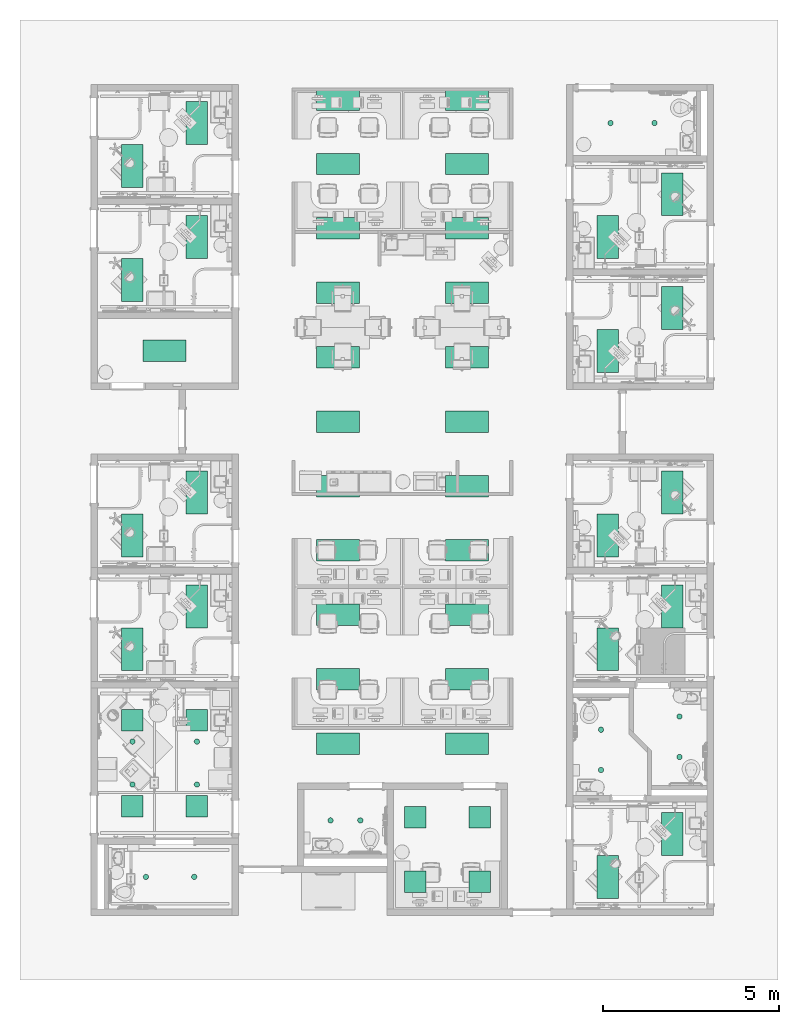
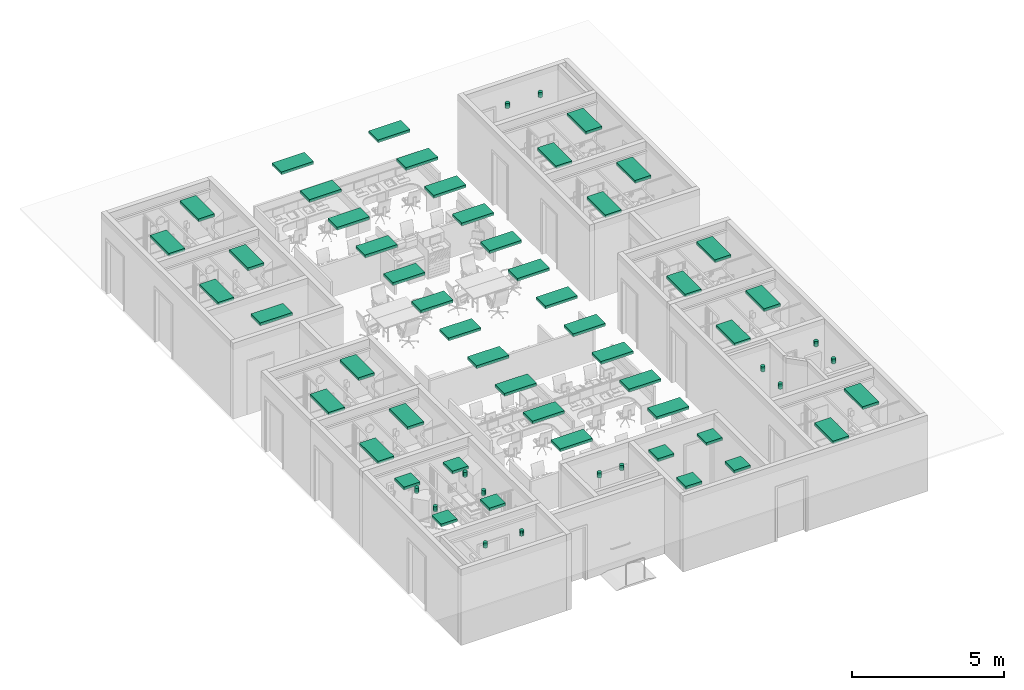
# One storey, part 6 of 142: 63 flow terminals.
"""IFC2X3 building model written with IfcOpenShell, lengths in feet."""

from ifc_helpers import new_model, entity, si_unit, converted_unit, derived_unit, direction, frame, frame_2d, origin, origin_2d_with_axis, place, context, subcontext, project, spatial, rectangle, circle, extrude, source, transform, mapped, type_object, type_shapes, element, save


model = new_model("IFC2X3")

# Units and contexts
model_context = context("Model", 3, precision=0.0001, world=origin(), true_north=direction((6.12303176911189e-17, 1.0)))
body_context = subcontext(model_context, "Body", "Model", "MODEL_VIEW")
ifc_project = project(units=[converted_unit("LENGTHUNIT", "FOOT", entity("IfcRatioMeasure", 0.3048), si_unit("LENGTHUNIT", "METRE"), dimensions=[1, 0, 0, 0, 0, 0, 0]), converted_unit("AREAUNIT", "SQUARE FOOT", entity("IfcRatioMeasure", 0.09290304), si_unit("AREAUNIT", "SQUARE_METRE"), dimensions=[2, 0, 0, 0, 0, 0, 0]), converted_unit("VOLUMEUNIT", "CUBIC FOOT", entity("IfcRatioMeasure", 0.028316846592), si_unit("VOLUMEUNIT", "CUBIC_METRE"), dimensions=[3, 0, 0, 0, 0, 0, 0]), converted_unit("PLANEANGLEUNIT", "DEGREE", entity("IfcRatioMeasure", 0.0174532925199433), si_unit("PLANEANGLEUNIT", "RADIAN"), dimensions=[0, 0, 0, 0, 0, 0, 0]), si_unit("MASSUNIT", "GRAM", prefix="KILO"), derived_unit("MASSDENSITYUNIT", [(si_unit("MASSUNIT", "GRAM", prefix="KILO"), 1), (si_unit("LENGTHUNIT", "METRE"), -3)]), si_unit("TIMEUNIT", "SECOND"), si_unit("FREQUENCYUNIT", "HERTZ"), si_unit("THERMODYNAMICTEMPERATUREUNIT", "DEGREE_CELSIUS"), derived_unit("THERMALTRANSMITTANCEUNIT", [(si_unit("MASSUNIT", "GRAM", prefix="KILO"), 1), (si_unit("THERMODYNAMICTEMPERATUREUNIT", "KELVIN"), -1), (si_unit("TIMEUNIT", "SECOND"), -3)]), derived_unit("VOLUMETRICFLOWRATEUNIT", [(si_unit("LENGTHUNIT", "METRE"), 3), (si_unit("TIMEUNIT", "SECOND"), -1)]), si_unit("ELECTRICCURRENTUNIT", "AMPERE"), si_unit("ELECTRICVOLTAGEUNIT", "VOLT"), si_unit("POWERUNIT", "WATT"), si_unit("FORCEUNIT", "NEWTON"), si_unit("ILLUMINANCEUNIT", "LUX"), si_unit("LUMINOUSFLUXUNIT", "LUMEN"), si_unit("LUMINOUSINTENSITYUNIT", "CANDELA"), derived_unit("USERDEFINED", [(si_unit("MASSUNIT", "GRAM", prefix="KILO"), -1), (si_unit("LENGTHUNIT", "METRE"), -2), (si_unit("TIMEUNIT", "SECOND"), 3), (si_unit("LUMINOUSFLUXUNIT", "LUMEN"), 1)]), derived_unit("LINEARVELOCITYUNIT", [(si_unit("LENGTHUNIT", "METRE"), 1), (si_unit("TIMEUNIT", "SECOND"), -1)]), si_unit("PRESSUREUNIT", "PASCAL"), derived_unit("USERDEFINED", [(si_unit("LENGTHUNIT", "METRE"), -2), (si_unit("MASSUNIT", "GRAM", prefix="KILO"), 1), (si_unit("TIMEUNIT", "SECOND"), -2)])], contexts=[model_context])

# Site, building, storey, space
site_placement = place(None, origin())
site = spatial("IfcSite", under=ifc_project, at=site_placement, Name="Default", CompositionType="ELEMENT")
building_placement = place(site_placement, origin())
building = spatial("IfcBuilding", under=site, at=building_placement, Name="OUTPATIENT / PACT CLINIC (Ch. 265)", CompositionType="ELEMENT")
storey_placement = place(building_placement, origin())
storey = spatial("IfcBuildingStorey", under=building, at=storey_placement, Name="LEVEL 1", CompositionType="ELEMENT", Elevation=0.0)
space_1_placement = place(storey_placement, origin())
space_1 = spatial("IfcSpace", under=storey, at=space_1_placement, Name="FA01", CompositionType="ELEMENT", InteriorOrExteriorSpace="INTERNAL")

# Flow terminals
light_fixture_type_1 = type_object("IfcLightFixtureType", Name="2'x2'", PredefinedType="NOTDEFINED")
shared_shape_1 = source(origin(), body_context, "Body", "SweptSolid", [
    extrude(rectangle(XDim=2.00000000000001, YDim=2.0, at=origin_2d_with_axis()), frame((-0.0613631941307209, -0.195098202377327, 8.0), z_axis=(0.0, 0.0, 1.0), x_axis=(-1.0, 0.0, 0.0)), (0.0, 0.0, 1.0), 0.375),
])
type_shapes(light_fixture_type_1, [shared_shape_1])
for number, where, z_axis, x_axis in (
    (1, (420.351685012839, -950.025807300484, 1.0), (0.0, 0.0, 1.0), (0.0, 1.0, 0.0)),
    (2, (426.351685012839, -950.025807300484, 1.0), (0.0, 0.0, 1.0), (0.0, 1.0, 0.0)),
    (3, (420.351685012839, -944.025807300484, 1.0), (0.0, 0.0, 1.0), (0.0, 1.0, 0.0)),
    (4, (426.351685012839, -944.025807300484, 1.0), (0.0, 0.0, 1.0), (0.0, 1.0, 0.0)),
):
    element("IfcFlowTerminal", number, at=place(space_1_placement, frame(where, z_axis=z_axis, x_axis=x_axis)), inside=space_1, type_object=light_fixture_type_1, Name="Troffer Light:2'x2'", ObjectType="2'x2'", context=body_context, shape_type="MappedRepresentation", body=[
        mapped(shared_shape_1, transform((0.0, 0.0, 0.0), scale=1.0)),
    ])

# Space
space_2_placement = place(storey_placement, origin())
space_2 = spatial("IfcSpace", under=storey, at=space_2_placement, Name="TRPR1", CompositionType="ELEMENT", InteriorOrExteriorSpace="INTERNAL")

# Flow terminals
for number, where, z_axis, x_axis in (
    (5, (394.018281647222, -942.984164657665, 1.0), (0.0, 0.0, 1.0), (0.0, 1.0, 0.0)),
    (6, (400.018281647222, -942.984164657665, 1.0), (0.0, 0.0, 1.0), (0.0, 1.0, 0.0)),
    (7, (394.018281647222, -934.984164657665, 1.0), (0.0, 0.0, 1.0), (0.0, 1.0, 0.0)),
    (8, (400.018281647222, -934.984164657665, 1.0), (0.0, 0.0, 1.0), (0.0, 1.0, 0.0)),
):
    element("IfcFlowTerminal", number, at=place(space_2_placement, frame(where, z_axis=z_axis, x_axis=x_axis)), inside=space_2, type_object=light_fixture_type_1, Name="Troffer Light:2'x2'", ObjectType="2'x2'", context=body_context, shape_type="MappedRepresentation", body=[
        mapped(shared_shape_1, transform((0.0, 0.0, 0.0), scale=1.0)),
    ])

# Space
space_3_placement = place(storey_placement, origin())
space_3 = spatial("IfcSpace", under=storey, at=space_3_placement, Name="WRTM1", CompositionType="ELEMENT", InteriorOrExteriorSpace="INTERNAL")

# Flow terminals
light_fixture_type_2 = type_object("IfcLightFixtureType", Name="2'x4'", PredefinedType="NOTDEFINED")
shared_shape_2 = source(origin(), body_context, "Body", "SweptSolid", [
    extrude(rectangle(XDim=4.00000000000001, YDim=2.0, at=frame_2d((0.0, 1.11022302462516e-16), x_axis=(1.0, 0.0))), frame((-0.0613631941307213, -0.195098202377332, 8.0), z_axis=(0.0, 0.0, 1.0), x_axis=(-1.0, 0.0, 0.0)), (0.0, 0.0, 1.0), 0.375),
])
type_shapes(light_fixture_type_2, [shared_shape_2])
for number, where, z_axis, x_axis in (
    (9, (413.297779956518, -925.428116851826, 1.0), (0.0, 0.0, 1.0), (-1.0, 0.0, 0.0)),
    (10, (425.297779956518, -925.428116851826, 1.0), (0.0, 0.0, 1.0), (-1.0, 0.0, 0.0)),
    (11, (425.297779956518, -919.428116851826, 1.0), (0.0, 0.0, 1.0), (-1.0, 0.0, 0.0)),
    (12, (413.297779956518, -919.428116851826, 1.0), (0.0, 0.0, 1.0), (-1.0, 0.0, 0.0)),
):
    element("IfcFlowTerminal", number, at=place(space_3_placement, frame(where, z_axis=z_axis, x_axis=x_axis)), inside=space_3, type_object=light_fixture_type_2, Name="Troffer Light:2'x4'", ObjectType="2'x4'", context=body_context, shape_type="MappedRepresentation", body=[
        mapped(shared_shape_2, transform((0.0, 0.0, 0.0), scale=1.0)),
    ])

# Space
space_4_placement = place(storey_placement, origin())
space_4 = spatial("IfcSpace", under=storey, at=space_4_placement, Name="RCA02", CompositionType="ELEMENT", InteriorOrExteriorSpace="INTERNAL")

# Flow terminal
flow_terminal_1_placement = place(space_4_placement, frame((413.297779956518, -913.428116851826, 1.0), z_axis=(0.0, 0.0, 1.0), x_axis=(-1.0, 0.0, 0.0)))
element("IfcFlowTerminal", 13, at=flow_terminal_1_placement, inside=space_4, type_object=light_fixture_type_2, Name="Troffer Light:2'x4'", ObjectType="2'x4'", context=body_context, shape_type="MappedRepresentation", body=[
    mapped(shared_shape_2, transform((0.0, 0.0, 0.0), scale=1.0)),
])

# Space
space_5_placement = place(storey_placement, origin())
space_5 = spatial("IfcSpace", under=storey, at=space_5_placement, Name="RCA01", CompositionType="ELEMENT", InteriorOrExteriorSpace="INTERNAL")

# Flow terminal
flow_terminal_2_placement = place(space_5_placement, frame((425.297779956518, -913.428116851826, 1.0), z_axis=(0.0, 0.0, 1.0), x_axis=(-1.0, 0.0, 0.0)))
element("IfcFlowTerminal", 14, at=flow_terminal_2_placement, inside=space_5, type_object=light_fixture_type_2, Name="Troffer Light:2'x4'", ObjectType="2'x4'", context=body_context, shape_type="MappedRepresentation", body=[
    mapped(shared_shape_2, transform((0.0, 0.0, 0.0), scale=1.0)),
])

# Space
space_6_placement = place(storey_placement, origin())
space_6 = spatial("IfcSpace", under=storey, at=space_6_placement, Name="WRTM1", CompositionType="ELEMENT", InteriorOrExteriorSpace="INTERNAL")

# Flow terminals
for number, where, z_axis, x_axis in (
    (15, (425.297779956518, -907.428116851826, 1.0), (0.0, 0.0, 1.0), (-1.0, 0.0, 0.0)),
    (16, (413.297779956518, -907.428116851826, 1.0), (0.0, 0.0, 1.0), (-1.0, 0.0, 0.0)),
    (17, (425.297779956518, -901.428116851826, 1.0), (0.0, 0.0, 1.0), (-1.0, 0.0, 0.0)),
    (18, (413.297779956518, -901.428116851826, 1.0), (0.0, 0.0, 1.0), (-1.0, 0.0, 0.0)),
    (19, (413.297779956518, -895.428116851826, 1.0), (0.0, 0.0, 1.0), (-1.0, 0.0, 0.0)),
    (20, (425.297779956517, -895.428116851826, 1.0), (0.0, 0.0, 1.0), (-1.0, 0.0, 0.0)),
):
    element("IfcFlowTerminal", number, at=place(space_6_placement, frame(where, z_axis=z_axis, x_axis=x_axis)), inside=space_6, type_object=light_fixture_type_2, Name="Troffer Light:2'x4'", ObjectType="2'x4'", context=body_context, shape_type="MappedRepresentation", body=[
        mapped(shared_shape_2, transform((0.0, 0.0, 0.0), scale=1.0)),
    ])

# Space
space_7_placement = place(storey_placement, origin())
space_7 = spatial("IfcSpace", under=storey, at=space_7_placement, Name="WRTM1", CompositionType="ELEMENT", InteriorOrExteriorSpace="INTERNAL")

# Flow terminals
for number, where, z_axis, x_axis in (
    (21, (425.297779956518, -889.428116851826, 1.0), (0.0, 0.0, 1.0), (-1.0, 0.0, 0.0)),
    (22, (413.297779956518, -889.428116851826, 1.0), (0.0, 0.0, 1.0), (-1.0, 0.0, 0.0)),
    (23, (413.297779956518, -883.428116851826, 1.0), (0.0, 0.0, 1.0), (-1.0, 0.0, 0.0)),
    (24, (425.297779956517, -883.428116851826, 1.0), (0.0, 0.0, 1.0), (-1.0, 0.0, 0.0)),
    (25, (425.297779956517, -877.428116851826, 1.0), (0.0, 0.0, 1.0), (-1.0, 0.0, 0.0)),
    (26, (413.297779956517, -877.428116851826, 1.0), (0.0, 0.0, 1.0), (-1.0, 0.0, 0.0)),
):
    element("IfcFlowTerminal", number, at=place(space_7_placement, frame(where, z_axis=z_axis, x_axis=x_axis)), inside=space_7, type_object=light_fixture_type_2, Name="Troffer Light:2'x4'", ObjectType="2'x4'", context=body_context, shape_type="MappedRepresentation", body=[
        mapped(shared_shape_2, transform((0.0, 0.0, 0.0), scale=1.0)),
    ])
for number, where, z_axis, x_axis in (
    (27, (413.297779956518, -931.428116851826, 1.0), (0.0, 0.0, 1.0), (-1.0, 0.0, 0.0)),
    (28, (425.297779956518, -931.428116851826, 1.0), (0.0, 0.0, 1.0), (-1.0, 0.0, 0.0)),
):
    element("IfcFlowTerminal", number, at=place(space_3_placement, frame(where, z_axis=z_axis, x_axis=x_axis)), inside=space_3, type_object=light_fixture_type_2, Name="Troffer Light:2'x4'", ObjectType="2'x4'", context=body_context, shape_type="MappedRepresentation", body=[
        mapped(shared_shape_2, transform((0.0, 0.0, 0.0), scale=1.0)),
    ])

# Space
space_8_placement = place(storey_placement, origin())
space_8 = spatial("IfcSpace", under=storey, at=space_8_placement, Name="EXW01", CompositionType="ELEMENT", InteriorOrExteriorSpace="INTERNAL")

# Flow terminal
flow_terminal_3_placement = place(space_8_placement, frame((444.700146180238, -924.502705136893, 1.0), z_axis=(0.0, 0.0, 1.0), x_axis=(0.0, -1.0, 0.0)))
element("IfcFlowTerminal", 29, at=flow_terminal_3_placement, inside=space_8, type_object=light_fixture_type_2, Name="Troffer Light:2'x4'", ObjectType="2'x4'", context=body_context, shape_type="MappedRepresentation", body=[
    mapped(shared_shape_2, transform((0.0, 0.0, 0.0), scale=1.0)),
])

# Space
space_9_placement = place(storey_placement, origin())
space_9 = spatial("IfcSpace", under=storey, at=space_9_placement, Name="EXPA1", CompositionType="ELEMENT", InteriorOrExteriorSpace="INTERNAL")

# Flow terminals
for number, where, z_axis, x_axis in (
    (30, (438.700146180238, -917.898538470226, 1.0), (0.0, 0.0, 1.0), (0.0, -1.0, 0.0)),
    (31, (444.700146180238, -913.898538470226, 1.0), (0.0, 0.0, 1.0), (0.0, -1.0, 0.0)),
):
    element("IfcFlowTerminal", number, at=place(space_9_placement, frame(where, z_axis=z_axis, x_axis=x_axis)), inside=space_9, type_object=light_fixture_type_2, Name="Troffer Light:2'x4'", ObjectType="2'x4'", context=body_context, shape_type="MappedRepresentation", body=[
        mapped(shared_shape_2, transform((0.0, 0.0, 0.0), scale=1.0)),
    ])
flow_terminal_4_placement = place(space_8_placement, frame((438.700146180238, -928.502705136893, 1.0), z_axis=(0.0, 0.0, 1.0), x_axis=(0.0, -1.0, 0.0)))
element("IfcFlowTerminal", 32, at=flow_terminal_4_placement, inside=space_8, type_object=light_fixture_type_2, Name="Troffer Light:2'x4'", ObjectType="2'x4'", context=body_context, shape_type="MappedRepresentation", body=[
    mapped(shared_shape_2, transform((0.0, 0.0, 0.0), scale=1.0)),
])

# Space
space_10_placement = place(storey_placement, origin())
space_10 = spatial("IfcSpace", under=storey, at=space_10_placement, Name="EXPA01", CompositionType="ELEMENT", InteriorOrExteriorSpace="INTERNAL")

# Flow terminals
for number, where, z_axis, x_axis in (
    (33, (394.408473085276, -928.502715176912, 1.0), (0.0, 0.0, 1.0), (0.0, -1.0, 0.0)),
    (34, (400.408478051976, -924.502715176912, 1.0), (0.0, 0.0, 1.0), (0.0, -1.0, 0.0)),
):
    element("IfcFlowTerminal", number, at=place(space_10_placement, frame(where, z_axis=z_axis, x_axis=x_axis)), inside=space_10, type_object=light_fixture_type_2, Name="Troffer Light:2'x4'", ObjectType="2'x4'", context=body_context, shape_type="MappedRepresentation", body=[
        mapped(shared_shape_2, transform((0.0, 0.0, 0.0), scale=1.0)),
    ])

# Space
space_11_placement = place(storey_placement, origin())
space_11 = spatial("IfcSpace", under=storey, at=space_11_placement, Name="UCCL1", CompositionType="ELEMENT", InteriorOrExteriorSpace="INTERNAL")

# Flow terminals
flow_terminal_5_placement = place(space_11_placement, frame((397.27474304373, -900.43375426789, 1.0)))
element("IfcFlowTerminal", 35, at=flow_terminal_5_placement, inside=space_11, type_object=light_fixture_type_2, Name="Troffer Light:2'x4'", ObjectType="2'x4'", context=body_context, shape_type="MappedRepresentation", body=[
    mapped(shared_shape_2, transform((0.0, 0.0, 0.0), scale=1.0)),
])
flow_terminal_6_placement = place(storey_placement, frame((413.297779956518, -937.428116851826, 1.0), z_axis=(0.0, 0.0, 1.0), x_axis=(-1.0, 0.0, 0.0)))
element("IfcFlowTerminal", 36, at=flow_terminal_6_placement, inside=storey, type_object=light_fixture_type_2, Name="Troffer Light:2'x4'", ObjectType="2'x4'", context=body_context, shape_type="MappedRepresentation", body=[
    mapped(shared_shape_2, transform((0.0, 0.0, 0.0), scale=1.0)),
])

# Space
space_12_placement = place(storey_placement, origin())
space_12 = spatial("IfcSpace", under=storey, at=space_12_placement, Name="EXPA01", CompositionType="ELEMENT", InteriorOrExteriorSpace="INTERNAL")

# Flow terminals
for number, where, z_axis, x_axis in (
    (37, (394.408473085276, -917.898548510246, 1.0), (0.0, 0.0, 1.0), (0.0, -1.0, 0.0)),
    (38, (400.408478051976, -913.898548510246, 1.0), (0.0, 0.0, 1.0), (0.0, -1.0, 0.0)),
):
    element("IfcFlowTerminal", number, at=place(space_12_placement, frame(where, z_axis=z_axis, x_axis=x_axis)), inside=space_12, type_object=light_fixture_type_2, Name="Troffer Light:2'x4'", ObjectType="2'x4'", context=body_context, shape_type="MappedRepresentation", body=[
        mapped(shared_shape_2, transform((0.0, 0.0, 0.0), scale=1.0)),
    ])

# Space
space_13_placement = place(storey_placement, origin())
space_13 = spatial("IfcSpace", under=storey, at=space_13_placement, Name="EXPA01", CompositionType="ELEMENT", InteriorOrExteriorSpace="INTERNAL")

# Flow terminals
for number, where, z_axis, x_axis in (
    (39, (394.408478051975, -894.086049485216, 1.0), (0.0, 0.0, 1.0), (0.0, -1.0, 0.0)),
    (40, (400.408478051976, -890.086049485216, 1.0), (0.0, 0.0, 1.0), (0.0, -1.0, 0.0)),
):
    element("IfcFlowTerminal", number, at=place(space_13_placement, frame(where, z_axis=z_axis, x_axis=x_axis)), inside=space_13, type_object=light_fixture_type_2, Name="Troffer Light:2'x4'", ObjectType="2'x4'", context=body_context, shape_type="MappedRepresentation", body=[
        mapped(shared_shape_2, transform((0.0, 0.0, 0.0), scale=1.0)),
    ])

# Space
space_14_placement = place(storey_placement, origin())
space_14 = spatial("IfcSpace", under=storey, at=space_14_placement, Name="EXPA01", CompositionType="ELEMENT", InteriorOrExteriorSpace="INTERNAL")

# Flow terminals
for number, where, z_axis, x_axis in (
    (41, (394.408478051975, -883.481882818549, 1.0), (0.0, 0.0, 1.0), (0.0, -1.0, 0.0)),
    (42, (400.408478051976, -879.481882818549, 1.0), (0.0, 0.0, 1.0), (0.0, -1.0, 0.0)),
):
    element("IfcFlowTerminal", number, at=place(space_14_placement, frame(where, z_axis=z_axis, x_axis=x_axis)), inside=space_14, type_object=light_fixture_type_2, Name="Troffer Light:2'x4'", ObjectType="2'x4'", context=body_context, shape_type="MappedRepresentation", body=[
        mapped(shared_shape_2, transform((0.0, 0.0, 0.0), scale=1.0)),
    ])

# Space
space_15_placement = place(storey_placement, origin())
space_15 = spatial("IfcSpace", under=storey, at=space_15_placement, Name="EXPA1", CompositionType="ELEMENT", InteriorOrExteriorSpace="INTERNAL")

# Flow terminals
for number, where, z_axis, x_axis in (
    (43, (438.700146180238, -890.108941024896, 1.0), (0.0, 0.0, 1.0), (0.0, -1.0, 0.0)),
    (44, (444.700146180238, -886.108941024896, 1.0), (0.0, 0.0, 1.0), (0.0, -1.0, 0.0)),
):
    element("IfcFlowTerminal", number, at=place(space_15_placement, frame(where, z_axis=z_axis, x_axis=x_axis)), inside=space_15, type_object=light_fixture_type_2, Name="Troffer Light:2'x4'", ObjectType="2'x4'", context=body_context, shape_type="MappedRepresentation", body=[
        mapped(shared_shape_2, transform((0.0, 0.0, 0.0), scale=1.0)),
    ])

# Space
space_16_placement = place(storey_placement, origin())
space_16 = spatial("IfcSpace", under=storey, at=space_16_placement, Name="EXPA1", CompositionType="ELEMENT", InteriorOrExteriorSpace="INTERNAL")

# Flow terminals
for number, where, z_axis, x_axis in (
    (45, (438.700146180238, -900.71311813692, 1.0), (0.0, 0.0, 1.0), (0.0, -1.0, 0.0)),
    (46, (444.700146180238, -896.71311813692, 1.0), (0.0, 0.0, 1.0), (0.0, -1.0, 0.0)),
):
    element("IfcFlowTerminal", number, at=place(space_16_placement, frame(where, z_axis=z_axis, x_axis=x_axis)), inside=space_16, type_object=light_fixture_type_2, Name="Troffer Light:2'x4'", ObjectType="2'x4'", context=body_context, shape_type="MappedRepresentation", body=[
        mapped(shared_shape_2, transform((0.0, 0.0, 0.0), scale=1.0)),
    ])

# Space
space_17_placement = place(storey_placement, origin())
space_17 = spatial("IfcSpace", under=storey, at=space_17_placement, Name="EXW01", CompositionType="ELEMENT", InteriorOrExteriorSpace="INTERNAL")

# Flow terminals
for number, where, z_axis, x_axis in (
    (47, (444.700296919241, -945.711018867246, 1.0), (0.0, 0.0, 1.0), (0.0, -1.0, 0.0)),
    (48, (438.700296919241, -949.711018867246, 1.0), (0.0, 0.0, 1.0), (0.0, -1.0, 0.0)),
):
    element("IfcFlowTerminal", number, at=place(space_17_placement, frame(where, z_axis=z_axis, x_axis=x_axis)), inside=space_17, type_object=light_fixture_type_2, Name="Troffer Light:2'x4'", ObjectType="2'x4'", context=body_context, shape_type="MappedRepresentation", body=[
        mapped(shared_shape_2, transform((0.0, 0.0, 0.0), scale=1.0)),
    ])
flow_terminal_7_placement = place(storey_placement, frame((425.297779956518, -937.428116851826, 1.0), z_axis=(0.0, 0.0, 1.0), x_axis=(-1.0, 0.0, 0.0)))
element("IfcFlowTerminal", 49, at=flow_terminal_7_placement, inside=storey, type_object=light_fixture_type_2, Name="Troffer Light:2'x4'", ObjectType="2'x4'", context=body_context, shape_type="MappedRepresentation", body=[
    mapped(shared_shape_2, transform((0.0, 0.0, 0.0), scale=1.0)),
])

# Space
space_18_placement = place(storey_placement, origin())
space_18 = spatial("IfcSpace", under=storey, at=space_18_placement, Name="TNPG1", CompositionType="ELEMENT", InteriorOrExteriorSpace="INTERNAL")

# Flow terminal
light_fixture_type_3 = type_object("IfcLightFixtureType", Name="6\"", PredefinedType="NOTDEFINED")
shared_shape_3 = source(origin(), body_context, "Body", "SweptSolid", [
    extrude(circle(Radius=0.25, at=frame_2d((0.0, -3.88578058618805e-16), x_axis=(1.0, 0.0))), frame((0.132132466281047, -0.159583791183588, 7.99242651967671)), (0.0, 0.0, 1.0), 0.666666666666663),
])
type_shapes(light_fixture_type_3, [shared_shape_3])
flow_terminal_8_placement = place(space_18_placement, frame((442.716594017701, -879.260924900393, 1.00757348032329)))
element("IfcFlowTerminal", 50, at=flow_terminal_8_placement, inside=space_18, type_object=light_fixture_type_3, Name="Downlight - Recessed Can1:6\"", ObjectType="6\"", context=body_context, shape_type="MappedRepresentation", body=[
    mapped(shared_shape_3, transform((0.0, 0.0, 0.0), scale=1.0)),
])

# Space
space_19_placement = place(storey_placement, origin())
space_19 = spatial("IfcSpace", under=storey, at=space_19_placement, Name="TNPG1", CompositionType="ELEMENT", InteriorOrExteriorSpace="INTERNAL")

# Flow terminals
flow_terminal_9_placement = place(space_19_placement, frame((412.539510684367, -944.224461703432, 1.00757348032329)))
element("IfcFlowTerminal", 51, at=flow_terminal_9_placement, inside=space_19, type_object=light_fixture_type_3, Name="Downlight - Recessed Can1:6\"", ObjectType="6\"", context=body_context, shape_type="MappedRepresentation", body=[
    mapped(shared_shape_3, transform((0.0, 0.0, 0.0), scale=1.0)),
])
flow_terminal_10_placement = place(space_18_placement, frame((438.622844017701, -879.260924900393, 1.00757348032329)))
element("IfcFlowTerminal", 52, at=flow_terminal_10_placement, inside=space_18, type_object=light_fixture_type_3, Name="Downlight - Recessed Can1:6\"", ObjectType="6\"", context=body_context, shape_type="MappedRepresentation", body=[
    mapped(shared_shape_3, transform((0.0, 0.0, 0.0), scale=1.0)),
])
flow_terminal_11_placement = place(space_19_placement, frame((415.310484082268, -944.224461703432, 1.00757348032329)))
element("IfcFlowTerminal", 53, at=flow_terminal_11_placement, inside=space_19, type_object=light_fixture_type_3, Name="Downlight - Recessed Can1:6\"", ObjectType="6\"", context=body_context, shape_type="MappedRepresentation", body=[
    mapped(shared_shape_3, transform((0.0, 0.0, 0.0), scale=1.0)),
])

# Space
space_20_placement = place(storey_placement, origin())
space_20 = spatial("IfcSpace", under=storey, at=space_20_placement, Name="TNPG1", CompositionType="ELEMENT", InteriorOrExteriorSpace="INTERNAL")

# Flow terminals
for number, where in (
    (54, (395.331270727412, -949.490095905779, 1.00757348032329)),
    (55, (399.831224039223, -949.490095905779, 1.00757348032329)),
):
    element("IfcFlowTerminal", number, at=place(space_20_placement, frame(where)), inside=space_20, type_object=light_fixture_type_3, Name="Downlight - Recessed Can1:6\"", ObjectType="6\"", context=body_context, shape_type="MappedRepresentation", body=[
        mapped(shared_shape_3, transform((0.0, 0.0, 0.0), scale=1.0)),
    ])

# Space
space_21_placement = place(storey_placement, origin())
space_21 = spatial("IfcSpace", under=storey, at=space_21_placement, Name="TPG01", CompositionType="ELEMENT", InteriorOrExteriorSpace="INTERNAL")

# Flow terminals
for number, where in (
    (56, (445.038097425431, -938.312988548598, 1.00757348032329)),
    (57, (445.038097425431, -934.552591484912, 1.00757348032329)),
):
    element("IfcFlowTerminal", number, at=place(space_21_placement, frame(where)), inside=space_21, type_object=light_fixture_type_3, Name="Downlight - Recessed Can1:6\"", ObjectType="6\"", context=body_context, shape_type="MappedRepresentation", body=[
        mapped(shared_shape_3, transform((0.0, 0.0, 0.0), scale=1.0)),
    ])
light_fixture_type_4 = type_object("IfcLightFixtureType", Name="6\"", PredefinedType="NOTDEFINED")
shared_shape_4 = source(origin(), body_context, "Body", "SweptSolid", [
    extrude(circle(Radius=0.25, at=frame_2d((0.0, -1.11022302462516e-15), x_axis=(1.0, 0.0))), frame((0.132132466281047, 0.159583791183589, 7.99242651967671)), (0.0, 0.0, 1.0), 0.666666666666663),
])
type_shapes(light_fixture_type_4, [shared_shape_4])
for number, where, z_axis, x_axis in (
    (58, (437.995115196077, -939.538406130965, 1.00757348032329), (0.0, 0.0, 1.0), (-1.0, 0.0, 0.0)),
    (59, (437.995115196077, -935.778009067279, 1.00757348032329), (0.0, 0.0, 1.0), (-1.0, 0.0, 0.0)),
):
    element("IfcFlowTerminal", number, at=place(storey_placement, frame(where, z_axis=z_axis, x_axis=x_axis)), inside=storey, type_object=light_fixture_type_4, Name="Downlight - Recessed Can1:6\"", ObjectType="6\"", context=body_context, shape_type="MappedRepresentation", body=[
        mapped(shared_shape_4, transform((0.0, 0.0, 0.0), scale=1.0)),
    ])
light_fixture_type_5 = type_object("IfcLightFixtureType", Name="6\"", PredefinedType="NOTDEFINED")
shared_shape_5 = source(origin(), body_context, "Body", "SweptSolid", [
    extrude(circle(Radius=0.25, at=frame_2d((0.0, -3.88578058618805e-16), x_axis=(1.0, 0.0))), frame((0.132132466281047, -0.159583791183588, 7.99242651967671)), (0.0, 0.0, 1.0), 0.666666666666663),
])
type_shapes(light_fixture_type_5, [shared_shape_5])
for number, where in (
    (60, (400.081247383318, -940.885934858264, 1.00757348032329)),
    (61, (394.081247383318, -940.885934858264, 1.00757348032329)),
    (62, (400.081247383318, -936.885944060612, 1.00757348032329)),
    (63, (394.081247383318, -936.885944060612, 1.00757348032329)),
):
    element("IfcFlowTerminal", number, at=place(space_2_placement, frame(where)), inside=space_2, type_object=light_fixture_type_5, Name="Downlight - Recessed Can1:6\"", ObjectType="6\"", context=body_context, shape_type="MappedRepresentation", body=[
        mapped(shared_shape_5, transform((0.0, 0.0, 0.0), scale=1.0)),
    ])

save(model, "model.ifc")
